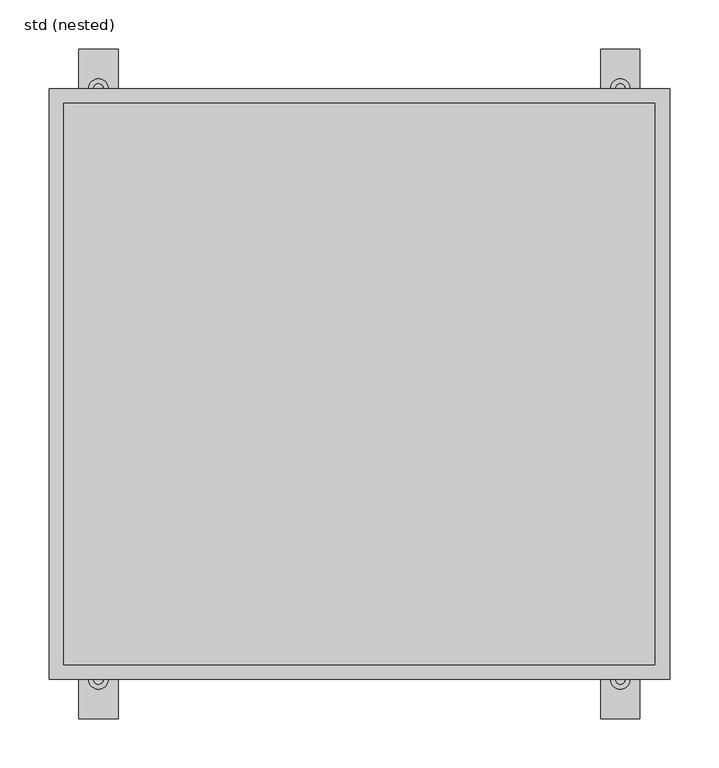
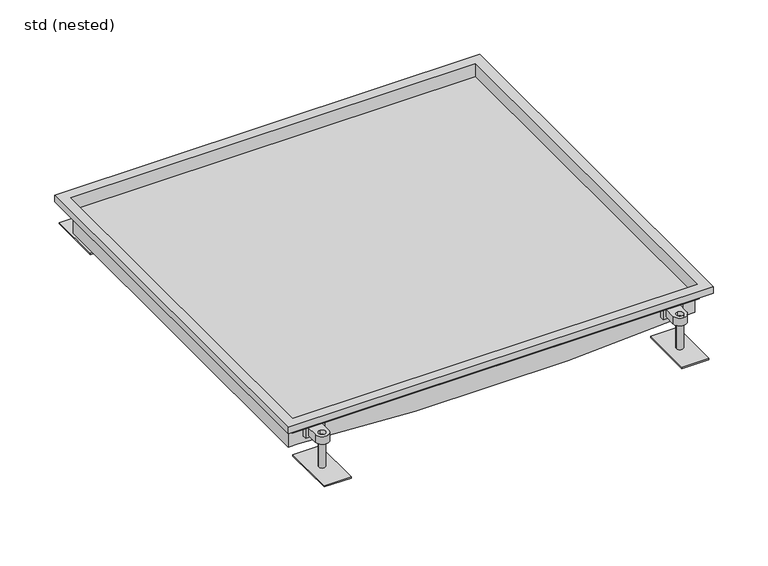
"""IFC4 building model written with IfcOpenShell, lengths in millimetres: sanitary terminal geometry, ZZZ_do not use_PF_ST_UN_custom hygienic box channel_ACO : std (nested)."""

from ifc_helpers import new_model, si_unit, point, frame, frame_2d, origin, place, context, project, spatial, polyline, circle_curve, trimmed, segment, composite_curve, outline, extrude, faceted_brep, source, transform, mapped, element, save
from ifc_brep_helpers import plane_surface, cylinder_surface, advanced_brep


def std_nested_4aa36dc4(model_context):
    return source(origin(), model_context, "Body", "SolidModel", [
        extrude(outline(composite_curve([segment(polyline([(275.0, 282.5), (255.0, 282.5), (255.0, 300.0)]), True, "CONTINUOUS"), segment(trimmed(circle_curve(frame_2d((265.0, 300.0)), 10.0), [point((255.0, 300.0))], [point((275.0, 300.0))], False, "CARTESIAN"), True, "CONTINUOUS"), segment(polyline([(275.0, 300.0), (275.0, 282.5)]), True, "CONTINUOUS")], self_intersect=False), holes=[composite_curve([segment(trimmed(circle_curve(frame_2d((265.0, 300.0)), 5.0), [point((265.0, 295.0))], [point((265.0, 305.0))], True, "CARTESIAN"), True, "CONTINUOUS"), segment(trimmed(circle_curve(frame_2d((265.0, 300.0)), 5.0), [point((265.0, 305.0))], [point((265.0, 295.0))], True, "CARTESIAN"), True, "CONTINUOUS")], self_intersect=False)]), frame((0.0, 0.0, -37.0), z_axis=(0.0, 0.0, 1.0), x_axis=(1.0, 0.0, 0.0)), (0.0, 0.0, 1.0), 12.0),
        advanced_brep(
        [(260.0, 300.0, -31.0), (270.0, 300.0, -31.0), (285.0, 260.0, -79.5), (245.0, 260.0, -79.5), (245.0, 340.0, -79.5), (285.0, 340.0, -79.5), (270.0, 300.0, -77.5), (260.0, 300.0, -77.5), (285.0, 260.0, -77.5), (285.0, 340.0, -77.5), (245.0, 340.0, -77.5), (245.0, 260.0, -77.5)],
        [
            (0, 1, circle_curve(frame((265.0, 300.0, -31.0), z_axis=(0.0, 0.0, 1.0), x_axis=(1.0, 0.0, 0.0)), 5.0)),
            (1, 0, circle_curve(frame((265.0, 300.0, -31.0), z_axis=(0.0, 0.0, 1.0), x_axis=(1.0, 0.0, 0.0)), 5.0)),
            (2, 3),
            (3, 4),
            (4, 5),
            (5, 2),
            (1, 6),
            (6, 7, circle_curve(frame((265.0, 300.0, -77.5), z_axis=(0.0, 0.0, 1.0), x_axis=(1.0, 0.0, 0.0)), 5.0)),
            (7, 0),
            (7, 6, circle_curve(frame((265.0, 300.0, -77.5), z_axis=(0.0, 0.0, 1.0), x_axis=(1.0, 0.0, 0.0)), 5.0)),
            (8, 9),
            (9, 10),
            (10, 11),
            (11, 8),
            (11, 3),
            (2, 8),
            (10, 4),
            (9, 5),
        ],
        [
            plane_surface(frame((270.0, 300.0, -31.0), z_axis=(0.0, 0.0, 1.0), x_axis=(0.0, -1.0, 0.0))),
            plane_surface(frame((270.0, 300.0, -79.5), z_axis=(0.0, 0.0, -1.0), x_axis=(0.0, 1.0, 0.0))),
            cylinder_surface(frame((265.0, 300.0, -79.5), z_axis=(0.0, 0.0, 1.0), x_axis=(1.0, 0.0, 0.0)), 5.0),
            plane_surface(frame((245.0, 260.0, -77.5), z_axis=(0.0, 0.0, 1.0), x_axis=(-1.0, 0.0, 0.0))),
            plane_surface(frame((285.0, 260.0, -77.5), z_axis=(0.0, -1.0, 0.0), x_axis=(0.0, 0.0, -1.0))),
            plane_surface(frame((245.0, 260.0, -77.5), z_axis=(-1.0, 0.0, 0.0), x_axis=(0.0, 0.0, -1.0))),
            plane_surface(frame((245.0, 340.0, -77.5), z_axis=(0.0, 1.0, 0.0), x_axis=(0.0, 0.0, -1.0))),
            plane_surface(frame((285.0, 340.0, -77.5), z_axis=(1.0, 0.0, 0.0), x_axis=(0.0, 0.0, -1.0))),
        ],
        [
            (0, [[1, 2]]),
            (1, [[3, 4, 5, 6]]),
            (2, [[7, 8, 9, -2]]),
            (2, [[-9, 10, -7, -1]]),
            (3, [[11, 12, 13, 14], [-10, -8]]),
            (4, [[15, -3, 16, -14]]),
            (5, [[17, -4, -15, -13]]),
            (6, [[18, -5, -17, -12]]),
            (7, [[-16, -6, -18, -11]]),
        ],
    ),
        extrude(outline(polyline([(279.35, 274.5), (250.65, 274.5), (250.65, 282.5), (279.35, 282.5), (279.35, 274.5)])), frame((0.0, 0.0, -40.0), z_axis=(0.0, 0.0, 1.0), x_axis=(1.0, 0.0, 0.0)), (0.0, 0.0, 1.0), 18.0),
        extrude(outline(composite_curve([segment(polyline([(275.0, -282.5), (275.0, -300.0)]), True, "CONTINUOUS"), segment(trimmed(circle_curve(frame_2d((265.0, -300.0)), 10.0), [point((275.0, -300.0))], [point((255.0, -300.0))], False, "CARTESIAN"), True, "CONTINUOUS"), segment(polyline([(255.0, -300.0), (255.0, -282.5), (275.0, -282.5)]), True, "CONTINUOUS")], self_intersect=False), holes=[composite_curve([segment(trimmed(circle_curve(frame_2d((265.0, -300.0)), 5.0), [point((265.0, -295.0))], [point((265.0, -305.0))], True, "CARTESIAN"), True, "CONTINUOUS"), segment(trimmed(circle_curve(frame_2d((265.0, -300.0)), 5.0), [point((265.0, -305.0))], [point((265.0, -295.0))], True, "CARTESIAN"), True, "CONTINUOUS")], self_intersect=False)]), frame((0.0, 0.0, -37.0), z_axis=(0.0, 0.0, 1.0), x_axis=(1.0, 0.0, 0.0)), (0.0, 0.0, 1.0), 12.0),
        advanced_brep(
        [(260.0, -300.0, -31.0), (270.0, -300.0, -31.0), (285.0, -260.0, -79.5), (285.0, -340.0, -79.5), (245.0, -340.0, -79.5), (245.0, -260.0, -79.5), (260.0, -300.0, -77.5), (270.0, -300.0, -77.5), (285.0, -260.0, -77.5), (245.0, -260.0, -77.5), (245.0, -340.0, -77.5), (285.0, -340.0, -77.5)],
        [
            (0, 1, circle_curve(frame((265.0, -300.0, -31.0), z_axis=(0.0, 0.0, 1.0), x_axis=(1.0, 0.0, 0.0)), 5.0)),
            (1, 0, circle_curve(frame((265.0, -300.0, -31.0), z_axis=(0.0, 0.0, 1.0), x_axis=(1.0, 0.0, 0.0)), 5.0)),
            (2, 3),
            (3, 4),
            (4, 5),
            (5, 2),
            (0, 6),
            (6, 7, circle_curve(frame((265.0, -300.0, -77.5), z_axis=(0.0, 0.0, 1.0), x_axis=(1.0, 0.0, 0.0)), 5.0)),
            (7, 1),
            (7, 6, circle_curve(frame((265.0, -300.0, -77.5), z_axis=(0.0, 0.0, 1.0), x_axis=(1.0, 0.0, 0.0)), 5.0)),
            (8, 9),
            (9, 10),
            (10, 11),
            (11, 8),
            (8, 2),
            (5, 9),
            (4, 10),
            (3, 11),
        ],
        [
            plane_surface(frame((270.0, -300.0, -31.0), z_axis=(0.0, 0.0, 1.0), x_axis=(0.0, 1.0, 0.0))),
            plane_surface(frame((270.0, -300.0, -79.5), z_axis=(0.0, 0.0, -1.0), x_axis=(0.0, -1.0, 0.0))),
            cylinder_surface(frame((265.0, -300.0, -79.5), z_axis=(0.0, 0.0, 1.0), x_axis=(1.0, 0.0, 0.0)), 5.0),
            plane_surface(frame((245.0, -260.0, -77.5), z_axis=(0.0, 0.0, 1.0), x_axis=(-1.0, 0.0, 0.0))),
            plane_surface(frame((285.0, -260.0, -77.5), z_axis=(0.0, 1.0, 0.0), x_axis=(0.0, 0.0, -1.0))),
            plane_surface(frame((245.0, -260.0, -77.5), z_axis=(-1.0, 0.0, 0.0), x_axis=(0.0, 0.0, -1.0))),
            plane_surface(frame((245.0, -340.0, -77.5), z_axis=(0.0, -1.0, 0.0), x_axis=(0.0, 0.0, -1.0))),
            plane_surface(frame((285.0, -340.0, -77.5), z_axis=(1.0, 0.0, 0.0), x_axis=(0.0, 0.0, -1.0))),
        ],
        [
            (0, [[1, 2]]),
            (1, [[3, 4, 5, 6]]),
            (2, [[-1, 7, 8, 9]]),
            (2, [[-2, -9, 10, -7]]),
            (3, [[11, 12, 13, 14], [-8, -10]]),
            (4, [[-11, 15, -6, 16]]),
            (5, [[-12, -16, -5, 17]]),
            (6, [[-13, -17, -4, 18]]),
            (7, [[-14, -18, -3, -15]]),
        ],
    ),
        extrude(outline(polyline([(279.35, -274.5), (279.35, -282.5), (250.65, -282.5), (250.65, -274.5), (279.35, -274.5)])), frame((0.0, 0.0, -40.0), z_axis=(0.0, 0.0, 1.0), x_axis=(1.0, 0.0, 0.0)), (0.0, 0.0, 1.0), 18.0),
        extrude(outline(composite_curve([segment(polyline([(-255.0, 282.5), (-275.0, 282.5), (-275.0, 300.0)]), True, "CONTINUOUS"), segment(trimmed(circle_curve(frame_2d((-265.0, 300.0)), 10.0), [point((-275.0, 300.0))], [point((-255.0, 300.0))], False, "CARTESIAN"), True, "CONTINUOUS"), segment(polyline([(-255.0, 300.0), (-255.0, 282.5)]), True, "CONTINUOUS")], self_intersect=False), holes=[composite_curve([segment(trimmed(circle_curve(frame_2d((-265.0, 300.0)), 5.0), [point((-265.0, 295.0))], [point((-265.0, 305.0))], True, "CARTESIAN"), True, "CONTINUOUS"), segment(trimmed(circle_curve(frame_2d((-265.0, 300.0)), 5.0), [point((-265.0, 305.0))], [point((-265.0, 295.0))], True, "CARTESIAN"), True, "CONTINUOUS")], self_intersect=False)]), frame((0.0, 0.0, -37.0), z_axis=(0.0, 0.0, 1.0), x_axis=(1.0, 0.0, 0.0)), (0.0, 0.0, 1.0), 12.0),
        advanced_brep(
        [(-270.0, 300.0, -31.0), (-260.0, 300.0, -31.0), (-245.0, 260.0, -79.5), (-285.0, 260.0, -79.5), (-285.0, 340.0, -79.5), (-245.0, 340.0, -79.5), (-260.0, 300.0, -77.5), (-270.0, 300.0, -77.5), (-245.0, 260.0, -77.5), (-245.0, 340.0, -77.5), (-285.0, 340.0, -77.5), (-285.0, 260.0, -77.5)],
        [
            (0, 1, circle_curve(frame((-265.0, 300.0, -31.0), z_axis=(0.0, 0.0, 1.0), x_axis=(1.0, 0.0, 0.0)), 5.0)),
            (1, 0, circle_curve(frame((-265.0, 300.0, -31.0), z_axis=(0.0, 0.0, 1.0), x_axis=(1.0, 0.0, 0.0)), 5.0)),
            (2, 3),
            (3, 4),
            (4, 5),
            (5, 2),
            (1, 6),
            (6, 7, circle_curve(frame((-265.0, 300.0, -77.5), z_axis=(0.0, 0.0, 1.0), x_axis=(1.0, 0.0, 0.0)), 5.0)),
            (7, 0),
            (7, 6, circle_curve(frame((-265.0, 300.0, -77.5), z_axis=(0.0, 0.0, 1.0), x_axis=(1.0, 0.0, 0.0)), 5.0)),
            (8, 9),
            (9, 10),
            (10, 11),
            (11, 8),
            (11, 3),
            (2, 8),
            (10, 4),
            (9, 5),
        ],
        [
            plane_surface(frame((-260.0, 300.0, -31.0), z_axis=(0.0, 0.0, 1.0), x_axis=(0.0, -1.0, 0.0))),
            plane_surface(frame((-260.0, 300.0, -79.5), z_axis=(0.0, 0.0, -1.0), x_axis=(0.0, 1.0, 0.0))),
            cylinder_surface(frame((-265.0, 300.0, -79.5), z_axis=(0.0, 0.0, 1.0), x_axis=(1.0, 0.0, 0.0)), 5.0),
            plane_surface(frame((-285.0, 260.0, -77.5), z_axis=(0.0, 0.0, 1.0), x_axis=(-1.0, 0.0, 0.0))),
            plane_surface(frame((-245.0, 260.0, -77.5), z_axis=(0.0, -1.0, 0.0), x_axis=(0.0, 0.0, -1.0))),
            plane_surface(frame((-285.0, 260.0, -77.5), z_axis=(-1.0, 0.0, 0.0), x_axis=(0.0, 0.0, -1.0))),
            plane_surface(frame((-285.0, 340.0, -77.5), z_axis=(0.0, 1.0, 0.0), x_axis=(0.0, 0.0, -1.0))),
            plane_surface(frame((-245.0, 340.0, -77.5), z_axis=(1.0, 0.0, 0.0), x_axis=(0.0, 0.0, -1.0))),
        ],
        [
            (0, [[1, 2]]),
            (1, [[3, 4, 5, 6]]),
            (2, [[7, 8, 9, -2]]),
            (2, [[-9, 10, -7, -1]]),
            (3, [[11, 12, 13, 14], [-10, -8]]),
            (4, [[15, -3, 16, -14]]),
            (5, [[17, -4, -15, -13]]),
            (6, [[18, -5, -17, -12]]),
            (7, [[-16, -6, -18, -11]]),
        ],
    ),
        extrude(outline(polyline([(-250.65, 274.5), (-279.35, 274.5), (-279.35, 282.5), (-250.65, 282.5), (-250.65, 274.5)])), frame((0.0, 0.0, -40.0), z_axis=(0.0, 0.0, 1.0), x_axis=(1.0, 0.0, 0.0)), (0.0, 0.0, 1.0), 18.0),
        extrude(outline(composite_curve([segment(polyline([(-255.0, -282.5), (-255.0, -300.0)]), True, "CONTINUOUS"), segment(trimmed(circle_curve(frame_2d((-265.0, -300.0)), 10.0), [point((-255.0, -300.0))], [point((-275.0, -300.0))], False, "CARTESIAN"), True, "CONTINUOUS"), segment(polyline([(-275.0, -300.0), (-275.0, -282.5), (-255.0, -282.5)]), True, "CONTINUOUS")], self_intersect=False), holes=[composite_curve([segment(trimmed(circle_curve(frame_2d((-265.0, -300.0)), 5.0), [point((-265.0, -295.0))], [point((-265.0, -305.0))], True, "CARTESIAN"), True, "CONTINUOUS"), segment(trimmed(circle_curve(frame_2d((-265.0, -300.0)), 5.0), [point((-265.0, -305.0))], [point((-265.0, -295.0))], True, "CARTESIAN"), True, "CONTINUOUS")], self_intersect=False)]), frame((0.0, 0.0, -37.0), z_axis=(0.0, 0.0, 1.0), x_axis=(1.0, 0.0, 0.0)), (0.0, 0.0, 1.0), 12.0),
        advanced_brep(
        [(-270.0, -300.0, -31.0), (-260.0, -300.0, -31.0), (-245.0, -260.0, -79.5), (-245.0, -340.0, -79.5), (-285.0, -340.0, -79.5), (-285.0, -260.0, -79.5), (-270.0, -300.0, -77.5), (-260.0, -300.0, -77.5), (-245.0, -260.0, -77.5), (-285.0, -260.0, -77.5), (-285.0, -340.0, -77.5), (-245.0, -340.0, -77.5)],
        [
            (0, 1, circle_curve(frame((-265.0, -300.0, -31.0), z_axis=(0.0, 0.0, 1.0), x_axis=(1.0, 0.0, 0.0)), 5.0)),
            (1, 0, circle_curve(frame((-265.0, -300.0, -31.0), z_axis=(0.0, 0.0, 1.0), x_axis=(1.0, 0.0, 0.0)), 5.0)),
            (2, 3),
            (3, 4),
            (4, 5),
            (5, 2),
            (0, 6),
            (6, 7, circle_curve(frame((-265.0, -300.0, -77.5), z_axis=(0.0, 0.0, 1.0), x_axis=(1.0, 0.0, 0.0)), 5.0)),
            (7, 1),
            (7, 6, circle_curve(frame((-265.0, -300.0, -77.5), z_axis=(0.0, 0.0, 1.0), x_axis=(1.0, 0.0, 0.0)), 5.0)),
            (8, 9),
            (9, 10),
            (10, 11),
            (11, 8),
            (8, 2),
            (5, 9),
            (4, 10),
            (3, 11),
        ],
        [
            plane_surface(frame((-260.0, -300.0, -31.0), z_axis=(0.0, 0.0, 1.0), x_axis=(0.0, 1.0, 0.0))),
            plane_surface(frame((-260.0, -300.0, -79.5), z_axis=(0.0, 0.0, -1.0), x_axis=(0.0, -1.0, 0.0))),
            cylinder_surface(frame((-265.0, -300.0, -79.5), z_axis=(0.0, 0.0, 1.0), x_axis=(1.0, 0.0, 0.0)), 5.0),
            plane_surface(frame((-285.0, -260.0, -77.5), z_axis=(0.0, 0.0, 1.0), x_axis=(-1.0, 0.0, 0.0))),
            plane_surface(frame((-245.0, -260.0, -77.5), z_axis=(0.0, 1.0, 0.0), x_axis=(0.0, 0.0, -1.0))),
            plane_surface(frame((-285.0, -260.0, -77.5), z_axis=(-1.0, 0.0, 0.0), x_axis=(0.0, 0.0, -1.0))),
            plane_surface(frame((-285.0, -340.0, -77.5), z_axis=(0.0, -1.0, 0.0), x_axis=(0.0, 0.0, -1.0))),
            plane_surface(frame((-245.0, -340.0, -77.5), z_axis=(1.0, 0.0, 0.0), x_axis=(0.0, 0.0, -1.0))),
        ],
        [
            (0, [[1, 2]]),
            (1, [[3, 4, 5, 6]]),
            (2, [[-1, 7, 8, 9]]),
            (2, [[-2, -9, 10, -7]]),
            (3, [[11, 12, 13, 14], [-8, -10]]),
            (4, [[-11, 15, -6, 16]]),
            (5, [[-12, -16, -5, 17]]),
            (6, [[-13, -17, -4, 18]]),
            (7, [[-14, -18, -3, -15]]),
        ],
    ),
        extrude(outline(polyline([(-250.65, -274.5), (-250.65, -282.5), (-279.35, -282.5), (-279.35, -274.5), (-250.65, -274.5)])), frame((0.0, 0.0, -40.0), z_axis=(0.0, 0.0, 1.0), x_axis=(1.0, 0.0, 0.0)), (0.0, 0.0, 1.0), 18.0),
        faceted_brep([(-300.0, 285.0, -22.0), (-300.0, 285.0, -20.5), (300.0, 285.0, -20.5), (300.0, 285.0, -22.0), (-300.0, -285.0, -20.5), (300.0, -285.0, -20.5), (-300.0, -285.0, -22.0), (300.0, -285.0, -22.0), (-300.0, -276.0, -22.0), (300.0, -276.0, -22.0), (300.0, 276.0, -22.0), (-300.0, 276.0, -22.0), (113.0, -276.0, -60.0), (286.5, -276.0, -50.0), (301.5, -276.0, -50.0), (301.5, -276.0, -22.0), (-301.5, -276.0, -22.0), (-301.5, -276.0, -50.0), (-286.5, -276.0, -50.0), (-113.0, -276.0, -60.0), (113.0, 276.0, -60.0), (286.5, 276.0, -50.0), (-113.0, 276.0, -60.0), (-286.5, 276.0, -50.0), (-301.5, 276.0, -50.0), (-301.5, 276.0, -22.0), (301.5, 276.0, -22.0), (301.5, 276.0, -50.0)], [[[0, 1, 2, 3]], [[1, 4, 5, 2]], [[4, 6, 7, 5]], [[6, 8, 9, 7]], [[10, 11, 0, 3]], [[12, 13, 14, 15, 9, 8, 16, 17, 18, 19]], [[13, 12, 20, 21]], [[21, 20, 22, 23, 24, 25, 11, 10, 26, 27]], [[22, 20, 12, 19]], [[19, 18, 23, 22]], [[24, 17, 16, 25]], [[25, 16, 8, 11]], [[17, 24, 23, 18]], [[4, 1, 0, 11, 8, 6]], [[5, 7, 9, 10, 3, 2]], [[26, 15, 14, 27]], [[15, 26, 10, 9]], [[27, 14, 13, 21]]]),
        advanced_brep(
        [(-100.0, 0.0, -131.5), (100.0, 0.0, -131.5), (0.0, 0.0, -131.5), (-100.0, 0.0, -70.0), (100.0, 0.0, -70.0), (-113.0, 0.0, -70.0), (113.0, 0.0, -70.0), (-113.0, 0.0, -60.0), (113.0, 0.0, -60.0), (0.0, 0.0, -60.0)],
        [
            (0, 1, circle_curve(frame((0.0, 0.0, -131.5), z_axis=(0.0, 0.0, -1.0), x_axis=(1.0, 0.0, 0.0)), 100.0)),
            (1, 2),
            (2, 0),
            (1, 0, circle_curve(frame((0.0, 0.0, -131.5), z_axis=(0.0, 0.0, -1.0), x_axis=(1.0, 0.0, 0.0)), 100.0)),
            (3, 4, circle_curve(frame((0.0, 0.0, -70.0), z_axis=(0.0, 0.0, -1.0), x_axis=(1.0, 0.0, 0.0)), 100.0)),
            (4, 1),
            (0, 3),
            (4, 3, circle_curve(frame((0.0, 0.0, -70.0), z_axis=(0.0, 0.0, -1.0), x_axis=(1.0, 0.0, 0.0)), 100.0)),
            (5, 6, circle_curve(frame((0.0, 0.0, -70.0), z_axis=(0.0, 0.0, -1.0), x_axis=(1.0, 0.0, 0.0)), 113.0)),
            (6, 4),
            (3, 5),
            (6, 5, circle_curve(frame((0.0, 0.0, -70.0), z_axis=(0.0, 0.0, -1.0), x_axis=(1.0, 0.0, 0.0)), 113.0)),
            (7, 8, circle_curve(frame((0.0, 0.0, -60.0), z_axis=(0.0, 0.0, -1.0), x_axis=(1.0, 0.0, 0.0)), 113.0)),
            (8, 6),
            (5, 7),
            (8, 7, circle_curve(frame((0.0, 0.0, -60.0), z_axis=(0.0, 0.0, -1.0), x_axis=(1.0, 0.0, 0.0)), 113.0)),
            (9, 8),
            (7, 9),
        ],
        [
            plane_surface(frame((0.0, 0.0, -131.5), z_axis=(0.0, 0.0, -1.0), x_axis=(1.0, 0.0, 0.0))),
            cylinder_surface(frame((0.0, 0.0, -140.0), z_axis=(0.0, 0.0, 1.0), x_axis=(1.0, 0.0, 0.0)), 100.0),
            plane_surface(frame((0.0, 0.0, -70.0), z_axis=(0.0, 0.0, -1.0), x_axis=(1.0, 0.0, 0.0))),
            cylinder_surface(frame((0.0, 0.0, -140.0), z_axis=(0.0, 0.0, 1.0), x_axis=(1.0, 0.0, 0.0)), 113.0),
            plane_surface(frame((0.0, 0.0, -60.0), z_axis=(0.0, 0.0, 1.0), x_axis=(1.0, 0.0, 0.0))),
        ],
        [
            (0, [[1, 2, 3]]),
            (0, [[4, -3, -2]]),
            (1, [[5, 6, -1, 7]]),
            (1, [[8, -7, -4, -6]]),
            (2, [[9, 10, -5, 11]]),
            (2, [[12, -11, -8, -10]]),
            (3, [[13, 14, -9, 15]]),
            (3, [[16, -15, -12, -14]]),
            (4, [[17, -13, 18]]),
            (4, [[-18, -16, -17]]),
        ],
    ),
        faceted_brep([(315.0, 300.0, -10.0), (315.0, 300.0, 0.0), (315.0, -300.0, 0.0), (315.0, -300.0, -10.0), (301.5, 286.5, -22.0), (301.5, 286.5, -1.5), (301.5, -286.5, -1.5), (301.5, -286.5, -22.0), (300.0, 285.0, 0.0), (300.0, 285.0, -22.0), (300.0, -285.0, -22.0), (300.0, -285.0, 0.0), (-315.0, -300.0, 0.0), (-315.0, -300.0, -10.0), (-301.5, -286.5, -1.5), (-301.5, -286.5, -22.0), (-300.0, -285.0, -22.0), (-300.0, -285.0, 0.0), (-315.0, 300.0, 0.0), (-315.0, 300.0, -10.0), (-301.5, 286.5, -1.5), (-301.5, 286.5, -22.0), (-300.0, 285.0, -22.0), (-300.0, 285.0, 0.0), (313.5, 298.5, -10.0), (-313.5, 298.5, -10.0), (-313.5, -298.5, -10.0), (313.5, -298.5, -10.0), (313.5, 298.5, -1.5), (313.5, -298.5, -1.5), (-313.5, -298.5, -1.5), (-313.5, 298.5, -1.5)], [[[0, 1, 2, 3]], [[4, 5, 6, 7]], [[8, 9, 10, 11]], [[3, 2, 12, 13]], [[7, 6, 14, 15]], [[11, 10, 16, 17]], [[13, 12, 18, 19]], [[15, 14, 20, 21]], [[17, 16, 22, 23]], [[19, 18, 1, 0]], [[3, 13, 19, 0], [24, 25, 26, 27]], [[21, 20, 5, 4]], [[7, 15, 21, 4], [9, 22, 16, 10]], [[23, 22, 9, 8]], [[1, 18, 12, 2], [11, 17, 23, 8]], [[28, 24, 27, 29]], [[29, 27, 26, 30]], [[30, 26, 25, 31]], [[31, 25, 24, 28]], [[29, 30, 31, 28], [5, 20, 14, 6]]]),
    ])


if __name__ == "__main__":
    model = new_model("IFC4")
    model_context = context("Model", 3, world=origin())
    ifc_project = project(units=[si_unit("LENGTHUNIT", "METRE", prefix="MILLI")], contexts=[model_context])
    site = spatial("IfcSite", under=ifc_project)
    building = spatial("IfcBuilding", under=site)
    placement = place(None, origin())
    std_nested_shape = std_nested_4aa36dc4(model_context)
    element("IfcSanitaryTerminal", 1, ObjectType="ZZZ_do not use_PF_ST_UN_custom hygienic box channel_ACO : std (nested)", at=placement, inside=building, context=model_context, shape_type="MappedRepresentation", body=[
        mapped(std_nested_shape, transform((0.0, 0.0, 0.0), x_axis=(1.0, 0.0, 0.0), y_axis=(0.0, 1.0, 0.0), z_axis=(0.0, 0.0, 1.0))),
    ])
    save(model, "model.ifc")
